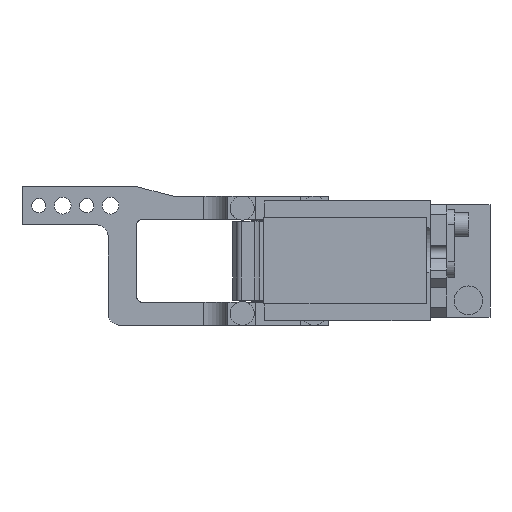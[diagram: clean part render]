
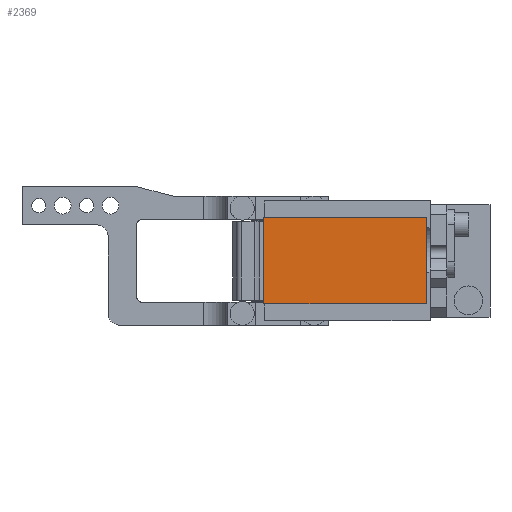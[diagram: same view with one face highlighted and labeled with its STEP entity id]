
A CAD part, front view. The second image highlights one B-rep face of the part: STEP entity #2369.
In plain terms, the highlighted planar face has unit normal (0, -1, 0).
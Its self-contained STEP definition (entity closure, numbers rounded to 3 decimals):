
#6 = CARTESIAN_POINT ( 'NONE',  ( -6., -233., 18. ) ) ;
#39 = LINE ( 'NONE', #12306, #14117 ) ;
#172 = VECTOR ( 'NONE', #4491, 1000. ) ;
#760 = ORIENTED_EDGE ( 'NONE', *, *, #6438, .T. ) ;
#1524 = DIRECTION ( 'NONE',  ( 0., 0., -1. ) ) ;
#2195 = LINE ( 'NONE', #6, #172 ) ;
#2310 = DIRECTION ( 'NONE',  ( 1., 0., 0. ) ) ;
#2369 = ADVANCED_FACE ( 'NONE', ( #13632 ), #9196, .T. ) ;
#2626 = CARTESIAN_POINT ( 'NONE',  ( -6., -233., 18. ) ) ;
#3314 = DIRECTION ( 'NONE',  ( 0., 0., 1. ) ) ;
#3948 = VERTEX_POINT ( 'NONE', #8572 ) ;
#3953 = VECTOR ( 'NONE', #4507, 1000. ) ;
#4158 = ORIENTED_EDGE ( 'NONE', *, *, #12831, .T. ) ;
#4409 = ORIENTED_EDGE ( 'NONE', *, *, #11935, .T. ) ;
#4433 = AXIS2_PLACEMENT_3D ( 'NONE', #12602, #9345, #1524 ) ;
#4491 = DIRECTION ( 'NONE',  ( -1., 0., 0. ) ) ;
#4507 = DIRECTION ( 'NONE',  ( 0., 0., -1. ) ) ;
#5588 = LINE ( 'NONE', #13152, #7298 ) ;
#6438 = EDGE_CURVE ( 'NONE', #9101, #10697, #11359, .T. ) ;
#7298 = VECTOR ( 'NONE', #3314, 1000. ) ;
#8091 = ORIENTED_EDGE ( 'NONE', *, *, #9895, .T. ) ;
#8572 = CARTESIAN_POINT ( 'NONE',  ( 62., -233., -18. ) ) ;
#9101 = VERTEX_POINT ( 'NONE', #2626 ) ;
#9196 = PLANE ( 'NONE',  #4433 ) ;
#9345 = DIRECTION ( 'NONE',  ( 0., -1., 0. ) ) ;
#9895 = EDGE_CURVE ( 'NONE', #3948, #12299, #5588, .T. ) ;
#10697 = VERTEX_POINT ( 'NONE', #11930 ) ;
#10838 = EDGE_LOOP ( 'NONE', ( #760, #4409, #8091, #4158 ) ) ;
#11146 = CARTESIAN_POINT ( 'NONE',  ( -6., -233., 18. ) ) ;
#11359 = LINE ( 'NONE', #11146, #3953 ) ;
#11930 = CARTESIAN_POINT ( 'NONE',  ( -6., -233., -18. ) ) ;
#11935 = EDGE_CURVE ( 'NONE', #10697, #3948, #39, .T. ) ;
#12299 = VERTEX_POINT ( 'NONE', #13737 ) ;
#12306 = CARTESIAN_POINT ( 'NONE',  ( -6., -233., -18. ) ) ;
#12602 = CARTESIAN_POINT ( 'NONE',  ( 0., -233., 0. ) ) ;
#12831 = EDGE_CURVE ( 'NONE', #12299, #9101, #2195, .T. ) ;
#13152 = CARTESIAN_POINT ( 'NONE',  ( 62., -233., 18. ) ) ;
#13632 = FACE_OUTER_BOUND ( 'NONE', #10838, .T. ) ;
#13737 = CARTESIAN_POINT ( 'NONE',  ( 62., -233., 18. ) ) ;
#14117 = VECTOR ( 'NONE', #2310, 1000. ) ;
